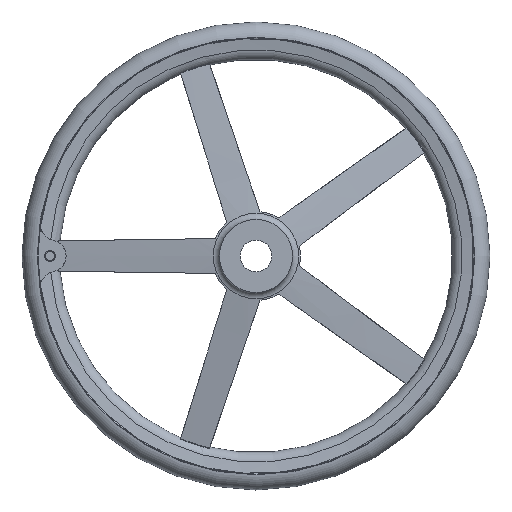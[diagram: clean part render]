
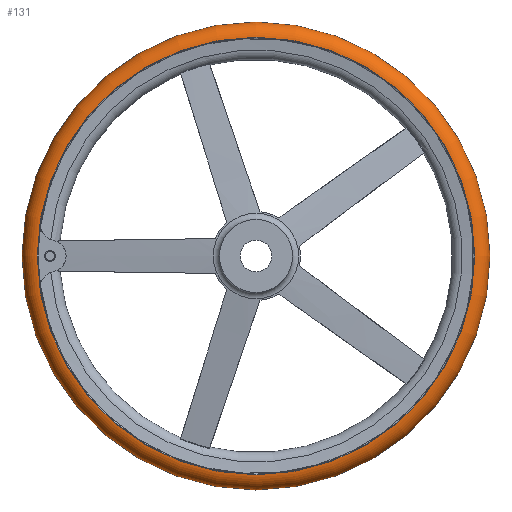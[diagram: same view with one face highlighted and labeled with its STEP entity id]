
A CAD part, left-side view. The second image highlights one B-rep face of the part: STEP entity #131.
In plain terms, the highlighted toroidal (fillet/blend) face has major radius 232.985 mm and minor radius 17.015 mm.
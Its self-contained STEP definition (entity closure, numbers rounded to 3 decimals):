
#131 = ADVANCED_FACE( '', ( #274, #275, #276 ), #277, .T. );
#274 = FACE_BOUND( '', #459, .T. );
#275 = FACE_OUTER_BOUND( '', #460, .T. );
#276 = FACE_OUTER_BOUND( '', #461, .T. );
#277 = TOROIDAL_SURFACE( '', #462, 232.985, 17.015 );
#459 = VERTEX_LOOP( '', #931 );
#460 = EDGE_LOOP( '', ( #932 ) );
#461 = EDGE_LOOP( '', ( #933 ) );
#462 = AXIS2_PLACEMENT_3D( '', #934, #935, #936 );
#931 = VERTEX_POINT( '', #1113 );
#932 = ORIENTED_EDGE( '', *, *, #1114, .T. );
#933 = ORIENTED_EDGE( '', *, *, #1043, .F. );
#934 = CARTESIAN_POINT( '', ( 55., 0., 0. ) );
#935 = DIRECTION( '', ( 1., 0., 0. ) );
#936 = DIRECTION( '', ( 0., 1., 0. ) );
#1043 = EDGE_CURVE( '', #1269, #1269, #1270, .T. );
#1113 = CARTESIAN_POINT( '', ( 55., 250., 0. ) );
#1114 = EDGE_CURVE( '', #1374, #1374, #1375, .T. );
#1269 = VERTEX_POINT( '', #1993 );
#1270 = CIRCLE( '', #1994, 233.708 );
#1374 = VERTEX_POINT( '', #2308 );
#1375 = CIRCLE( '', #2309, 233.708 );
#1993 = CARTESIAN_POINT( '', ( 72., 233.708, 0. ) );
#1994 = AXIS2_PLACEMENT_3D( '', #2392, #2393, #2394 );
#2308 = CARTESIAN_POINT( '', ( 38., 233.708, 0. ) );
#2309 = AXIS2_PLACEMENT_3D( '', #2521, #2522, #2523 );
#2392 = CARTESIAN_POINT( '', ( 72., 0., 0. ) );
#2393 = DIRECTION( '', ( 1., 0., 0. ) );
#2394 = DIRECTION( '', ( 0., 1., 0. ) );
#2521 = CARTESIAN_POINT( '', ( 38., 0., 0. ) );
#2522 = DIRECTION( '', ( 1., 0., 0. ) );
#2523 = DIRECTION( '', ( 0., 1., 0. ) );
